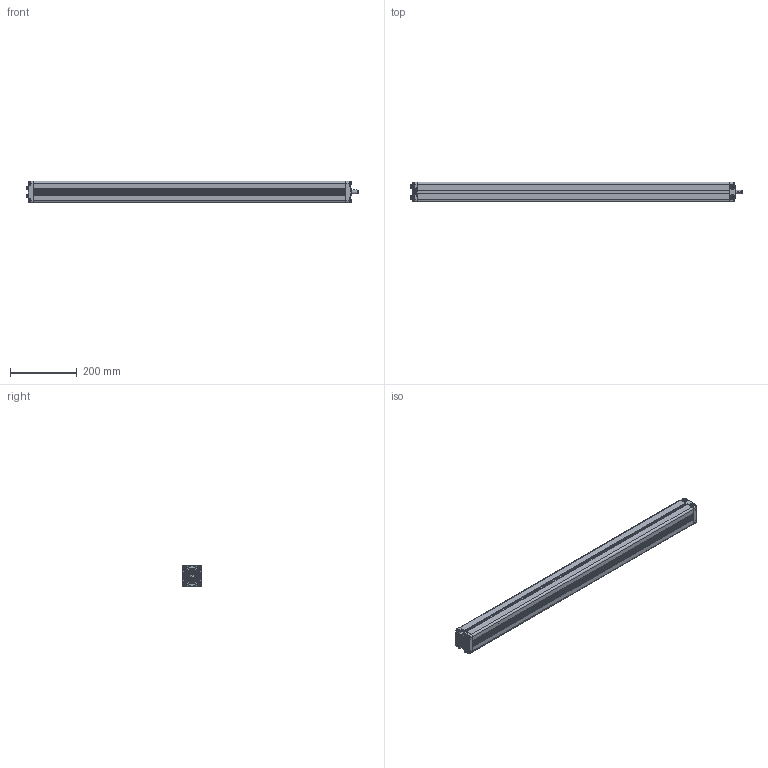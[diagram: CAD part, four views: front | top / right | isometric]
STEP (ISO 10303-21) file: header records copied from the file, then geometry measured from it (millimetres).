
FILE_DESCRIPTION(/* description */ ('Unknown'),/* implementation_level */ '2;1');
FILE_NAME(/* name */ '103.20037 Pumpe PF 4870 W',/* time_stamp */ '2018-01-19T16:43:12+01:00',/* author */ ('Unknown'),/* organization */ ('Unknown'),/* preprocessor_version */ 'ST-DEVELOPER v16.7',/* originating_system */ 'DEX',/* authorisation */ $);
FILE_SCHEMA (('AUTOMOTIVE_DESIGN {1 0 10303 214 3 1 1}'));
Products named in the file (20): 103.20037; 115.10057_oa_0; 125.00126; 115.00008_oa_1; 142.00021; 125.00021; 115.10057_oa_2; 115.00008_oa_3; 142.00013; 115.10057_oa_4; 115.00008_oa_5; 115.10057_oa_6; 115.00008_oa_7; 142.00057; 125.00149; 115.00141; 126.00076; 122.00040; 119.00357; 126.00075
Assembly tree (35 placements, depth 3):
  103.20037
    115.10057_oa_0
      125.00126
      115.00008_oa_1
      142.00021
      125.00021
    115.10057_oa_2
      125.00126
      115.00008_oa_3
      142.00021
      125.00021
    142.00013  x8
    115.10057_oa_4
      125.00126
      115.00008_oa_5
      142.00021
      125.00021
    115.10057_oa_6
      125.00126
      115.00008_oa_7
      142.00021
      125.00021
    142.00057
    125.00149
    115.00141
      126.00076
      122.00040
    119.00357
    126.00075
Bounding box: 998.47 x 60 x 65 mm (x, y, z)
Volume: 1128841.6 mm3; surface area: 696079.7 mm2
Topology: 26 solids, 26 shells, 2342 faces, 5747 edges, 3441 vertices
Faces by surface type: plane 912, cylinder 537, bspline 452, cone 323, torus 106, sphere 12
Full cylindrical faces by diameter (mm): 3.5 x4, 4.1 x4, 4.2 x4, 5 x8, 6.917 x8, 8 x9, 9.8 x8, 10 x3, 10.4 x1, 13 x4, 14 x2, 14.4 x4, 17.9 x8, 18 x1, 19 x1
Entity records: 75436 total; most frequent: CARTESIAN_POINT 38101, ORIENTED_EDGE 8008, DIRECTION 6425, EDGE_CURVE 4004, VERTEX_POINT 2556, AXIS2_PLACEMENT_3D 2245, LINE 1935, VECTOR 1935
